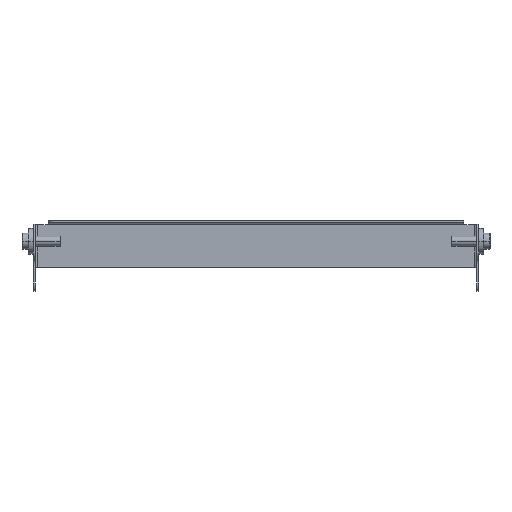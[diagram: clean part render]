
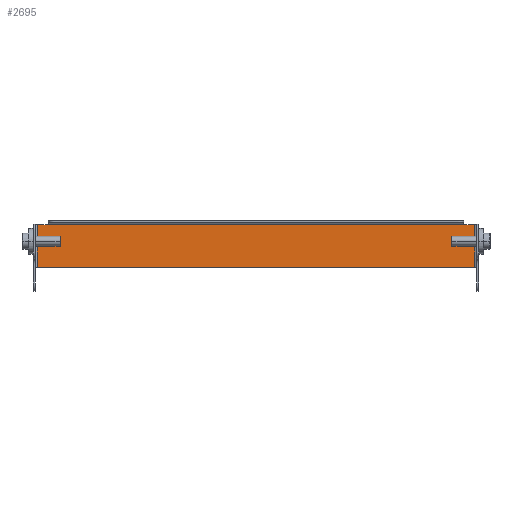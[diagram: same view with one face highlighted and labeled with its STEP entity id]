
A CAD part, top view. The second image highlights one B-rep face of the part: STEP entity #2695.
In plain terms, the highlighted planar face has unit normal (0, 0, 1).
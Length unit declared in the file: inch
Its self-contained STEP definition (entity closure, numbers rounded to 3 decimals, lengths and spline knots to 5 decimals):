
#1288=DIRECTION('',(0.,1.,0.));
#1289=VECTOR('',#1288,1.03498);
#1290=CARTESIAN_POINT('',(-5.3095,-0.22248,0.));
#1291=LINE('',#1290,#1289);
#1292=DIRECTION('',(1.,0.,0.));
#1293=VECTOR('',#1292,10.619);
#1294=CARTESIAN_POINT('',(-5.3095,-0.22248,0.));
#1295=LINE('',#1294,#1293);
#1300=DIRECTION('',(1.,0.,0.));
#1301=VECTOR('',#1300,0.2645);
#1302=CARTESIAN_POINT('',(-5.3095,0.8125,0.));
#1303=LINE('',#1302,#1301);
#1680=DIRECTION('',(0.,-1.,0.));
#1681=VECTOR('',#1680,1.03498);
#1682=CARTESIAN_POINT('',(5.3095,0.8125,0.));
#1683=LINE('',#1682,#1681);
#1702=DIRECTION('',(1.,0.,0.));
#1703=VECTOR('',#1702,0.2645);
#1704=CARTESIAN_POINT('',(5.045,0.8125,0.));
#1705=LINE('',#1704,#1703);
#1788=DIRECTION('',(1.,0.,0.));
#1789=VECTOR('',#1788,10.09);
#1790=CARTESIAN_POINT('',(-5.045,0.8125,0.));
#1791=LINE('',#1790,#1789);
#2062=CARTESIAN_POINT('',(5.3095,0.8125,0.));
#2063=CARTESIAN_POINT('',(5.3095,-0.22248,0.));
#2064=VERTEX_POINT('',#2062);
#2065=VERTEX_POINT('',#2063);
#2253=CARTESIAN_POINT('',(-5.3095,-0.22248,0.));
#2254=VERTEX_POINT('',#2253);
#2265=CARTESIAN_POINT('',(-5.3095,0.8125,0.));
#2266=VERTEX_POINT('',#2265);
#2326=CARTESIAN_POINT('',(-5.045,0.8125,0.));
#2327=CARTESIAN_POINT('',(5.045,0.8125,0.));
#2328=VERTEX_POINT('',#2326);
#2329=VERTEX_POINT('',#2327);
#2678=CARTESIAN_POINT('',(0.,0.,0.));
#2679=DIRECTION('',(0.,0.,1.));
#2680=DIRECTION('',(1.,0.,0.));
#2681=AXIS2_PLACEMENT_3D('',#2678,#2679,#2680);
#2682=PLANE('',#2681);
#2683=ORIENTED_EDGE('',*,*,#2644,.F.);
#2684=ORIENTED_EDGE('',*,*,#2672,.T.);
#2686=ORIENTED_EDGE('',*,*,#2685,.T.);
#2688=ORIENTED_EDGE('',*,*,#2687,.T.);
#2690=ORIENTED_EDGE('',*,*,#2689,.T.);
#2692=ORIENTED_EDGE('',*,*,#2691,.T.);
#2693=EDGE_LOOP('',(#2683,#2684,#2686,#2688,#2690,#2692));
#2694=FACE_OUTER_BOUND('',#2693,.F.);
#2644=EDGE_CURVE('',#2254,#2065,#1295,.T.);
#2672=EDGE_CURVE('',#2254,#2266,#1291,.T.);
#2685=EDGE_CURVE('',#2266,#2328,#1303,.T.);
#2687=EDGE_CURVE('',#2328,#2329,#1791,.T.);
#2689=EDGE_CURVE('',#2329,#2064,#1705,.T.);
#2691=EDGE_CURVE('',#2064,#2065,#1683,.T.);
#2695=ADVANCED_FACE('',(#2694),#2682,.T.);
